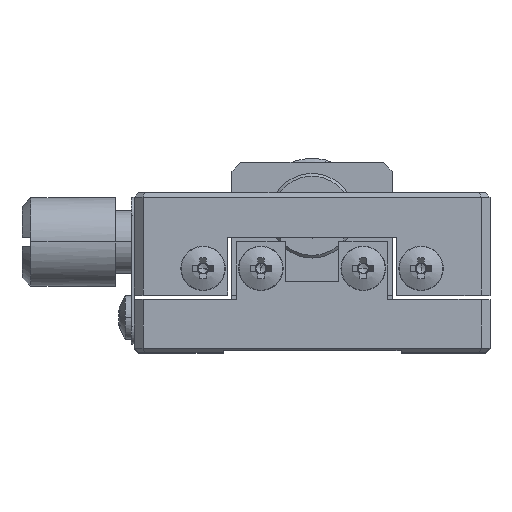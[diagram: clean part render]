
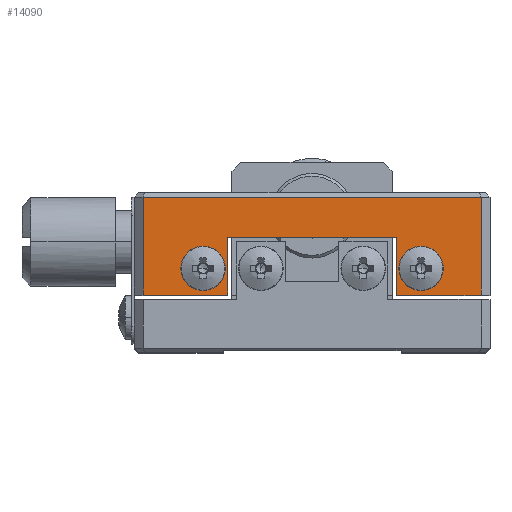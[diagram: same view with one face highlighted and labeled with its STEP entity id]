
A CAD part, top view. The second image highlights one B-rep face of the part: STEP entity #14090.
In plain terms, the highlighted planar face has unit normal (0, 0, 1).
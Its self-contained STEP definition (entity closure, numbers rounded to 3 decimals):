
#13 = VECTOR ( 'NONE', #9646, 1000. ) ;
#201 = AXIS2_PLACEMENT_3D ( 'NONE', #3039, #3044, #3045 ) ;
#425 = VECTOR ( 'NONE', #9691, 1000. ) ;
#449 = VECTOR ( 'NONE', #9792, 1000. ) ;
#454 = VECTOR ( 'NONE', #9825, 1000. ) ;
#479 = AXIS2_PLACEMENT_3D ( 'NONE', #6502, #6503, #6504 ) ;
#481 = VECTOR ( 'NONE', #6505, 1000. ) ;
#482 = CIRCLE ( 'NONE', #479, 2.5 ) ;
#508 = VECTOR ( 'NONE', #6581, 1000. ) ;
#580 = EDGE_CURVE ( 'NONE', #13900, #13899, #9644, .T. ) ;
#594 = EDGE_CURVE ( 'NONE', #13899, #13895, #9686, .T. ) ;
#616 = EDGE_CURVE ( 'NONE', #13894, #13895, #9790, .T. ) ;
#625 = EDGE_CURVE ( 'NONE', #4903, #4914, #9816, .T. ) ;
#647 = EDGE_CURVE ( 'NONE', #5151, #5154, #482, .T. ) ;
#648 = EDGE_CURVE ( 'NONE', #13893, #4914, #6501, .T. ) ;
#670 = EDGE_CURVE ( 'NONE', #13903, #13893, #6577, .T. ) ;
#727 = EDGE_CURVE ( 'NONE', #4903, #13900, #6764, .T. ) ;
#730 = EDGE_CURVE ( 'NONE', #5179, #5150, #9019, .T. ) ;
#742 = EDGE_CURVE ( 'NONE', #13894, #13903, #6834, .T. ) ;
#917 = EDGE_LOOP ( 'NONE', ( #14309, #14310 ) ) ;
#929 = EDGE_LOOP ( 'NONE', ( #14307, #14308 ) ) ;
#930 = EDGE_LOOP ( 'NONE', ( #14311, #14312, #14313, #14314, #14315, #14316, #14317, #14318 ) ) ;
#1629 = CARTESIAN_POINT ( 'NONE',  ( 37.095, 15.5, -35.461 ) ) ;
#1646 = CARTESIAN_POINT ( 'NONE',  ( -0.905, 15.5, -35.461 ) ) ;
#1685 = CARTESIAN_POINT ( 'NONE',  ( 5.845, 5., -35.461 ) ) ;
#1686 = CARTESIAN_POINT ( 'NONE',  ( 30.345, 10., -35.461 ) ) ;
#1688 = CARTESIAN_POINT ( 'NONE',  ( 30.345, 5., -35.461 ) ) ;
#1712 = CARTESIAN_POINT ( 'NONE',  ( 5.845, 10., -35.461 ) ) ;
#2567 = CARTESIAN_POINT ( 'NONE',  ( 37.095, 4.5, -35.461 ) ) ;
#2568 = CARTESIAN_POINT ( 'NONE',  ( -0.905, 4.5, -35.461 ) ) ;
#2569 = CARTESIAN_POINT ( 'NONE',  ( 8.595, 11., -35.461 ) ) ;
#2570 = CARTESIAN_POINT ( 'NONE',  ( 27.595, 11., -35.461 ) ) ;
#2572 = CARTESIAN_POINT ( 'NONE',  ( 27.595, 4.5, -35.461 ) ) ;
#2575 = CARTESIAN_POINT ( 'NONE',  ( 8.595, 4.5, -35.461 ) ) ;
#3025 = FACE_BOUND ( 'NONE', #917, .T. ) ;
#3034 = FACE_OUTER_BOUND ( 'NONE', #930, .T. ) ;
#3038 = FACE_BOUND ( 'NONE', #929, .T. ) ;
#3039 = CARTESIAN_POINT ( 'NONE',  ( 33.295, 4.5, -35.461 ) ) ;
#3043 = PLANE ( 'NONE',  #201 ) ;
#3044 = DIRECTION ( 'NONE',  ( 0., 0., -1. ) ) ;
#3045 = DIRECTION ( 'NONE',  ( 0., 1., 0. ) ) ;
#4903 = VERTEX_POINT ( 'NONE', #1629 ) ;
#4914 = VERTEX_POINT ( 'NONE', #1646 ) ;
#5150 = VERTEX_POINT ( 'NONE', #1685 ) ;
#5151 = VERTEX_POINT ( 'NONE', #1686 ) ;
#5154 = VERTEX_POINT ( 'NONE', #1688 ) ;
#5179 = VERTEX_POINT ( 'NONE', #1712 ) ;
#6499 = CARTESIAN_POINT ( 'NONE',  ( -0.905, 4.5, -35.461 ) ) ;
#6501 = LINE ( 'NONE', #6499, #481 ) ;
#6502 = CARTESIAN_POINT ( 'NONE',  ( 30.345, 7.5, -35.461 ) ) ;
#6503 = DIRECTION ( 'NONE',  ( 0., 0., 1. ) ) ;
#6504 = DIRECTION ( 'NONE',  ( 0., -1., 0. ) ) ;
#6505 = DIRECTION ( 'NONE',  ( 0., 1., 0. ) ) ;
#6576 = CARTESIAN_POINT ( 'NONE',  ( 33.295, 4.5, -35.461 ) ) ;
#6577 = LINE ( 'NONE', #6576, #508 ) ;
#6581 = DIRECTION ( 'NONE',  ( -1., 0., 0. ) ) ;
#6764 = LINE ( 'NONE', #6784, #9014 ) ;
#6784 = CARTESIAN_POINT ( 'NONE',  ( 37.095, 4.5, -35.461 ) ) ;
#6785 = DIRECTION ( 'NONE',  ( 0., -1., 0. ) ) ;
#6796 = CARTESIAN_POINT ( 'NONE',  ( 5.845, 7.5, -35.461 ) ) ;
#6797 = DIRECTION ( 'NONE',  ( 0., 0., 1. ) ) ;
#6798 = DIRECTION ( 'NONE',  ( 0., -1., 0. ) ) ;
#6832 = CARTESIAN_POINT ( 'NONE',  ( 8.595, 4.5, -35.461 ) ) ;
#6834 = LINE ( 'NONE', #6832, #9039 ) ;
#6839 = DIRECTION ( 'NONE',  ( 0., -1., 0. ) ) ;
#7207 = CIRCLE ( 'NONE', #7208, 2.5 ) ;
#7208 = AXIS2_PLACEMENT_3D ( 'NONE', #14831, #14832, #14833 ) ;
#7214 = CIRCLE ( 'NONE', #7218, 2.5 ) ;
#7218 = AXIS2_PLACEMENT_3D ( 'NONE', #14850, #14851, #14852 ) ;
#7871 = EDGE_CURVE ( 'NONE', #5154, #5151, #7207, .T. ) ;
#7877 = EDGE_CURVE ( 'NONE', #5150, #5179, #7214, .T. ) ;
#9012 = AXIS2_PLACEMENT_3D ( 'NONE', #6796, #6797, #6798 ) ;
#9014 = VECTOR ( 'NONE', #6785, 1000. ) ;
#9019 = CIRCLE ( 'NONE', #9012, 2.5 ) ;
#9039 = VECTOR ( 'NONE', #6839, 1000. ) ;
#9644 = LINE ( 'NONE', #9645, #13 ) ;
#9645 = CARTESIAN_POINT ( 'NONE',  ( 33.295, 4.5, -35.461 ) ) ;
#9646 = DIRECTION ( 'NONE',  ( -1., 0., 0. ) ) ;
#9683 = CARTESIAN_POINT ( 'NONE',  ( 27.595, 4.5, -35.461 ) ) ;
#9686 = LINE ( 'NONE', #9683, #425 ) ;
#9691 = DIRECTION ( 'NONE',  ( 0., 1., 0. ) ) ;
#9790 = LINE ( 'NONE', #9791, #449 ) ;
#9791 = CARTESIAN_POINT ( 'NONE',  ( 27.595, 11., -35.461 ) ) ;
#9792 = DIRECTION ( 'NONE',  ( 1., 0., 0. ) ) ;
#9816 = LINE ( 'NONE', #9824, #454 ) ;
#9824 = CARTESIAN_POINT ( 'NONE',  ( -1.905, 15.5, -35.461 ) ) ;
#9825 = DIRECTION ( 'NONE',  ( -1., 0., 0. ) ) ;
#13893 = VERTEX_POINT ( 'NONE', #2568 ) ;
#13894 = VERTEX_POINT ( 'NONE', #2569 ) ;
#13895 = VERTEX_POINT ( 'NONE', #2570 ) ;
#13899 = VERTEX_POINT ( 'NONE', #2572 ) ;
#13900 = VERTEX_POINT ( 'NONE', #2567 ) ;
#13903 = VERTEX_POINT ( 'NONE', #2575 ) ;
#14090 = ADVANCED_FACE ( 'NONE', ( #3038, #3025, #3034 ), #3043, .F. ) ;
#14307 = ORIENTED_EDGE ( 'NONE', *, *, #7871, .F. ) ;
#14308 = ORIENTED_EDGE ( 'NONE', *, *, #647, .F. ) ;
#14309 = ORIENTED_EDGE ( 'NONE', *, *, #7877, .F. ) ;
#14310 = ORIENTED_EDGE ( 'NONE', *, *, #730, .F. ) ;
#14311 = ORIENTED_EDGE ( 'NONE', *, *, #580, .F. ) ;
#14312 = ORIENTED_EDGE ( 'NONE', *, *, #727, .F. ) ;
#14313 = ORIENTED_EDGE ( 'NONE', *, *, #625, .T. ) ;
#14314 = ORIENTED_EDGE ( 'NONE', *, *, #648, .F. ) ;
#14315 = ORIENTED_EDGE ( 'NONE', *, *, #670, .F. ) ;
#14316 = ORIENTED_EDGE ( 'NONE', *, *, #742, .F. ) ;
#14317 = ORIENTED_EDGE ( 'NONE', *, *, #616, .T. ) ;
#14318 = ORIENTED_EDGE ( 'NONE', *, *, #594, .F. ) ;
#14831 = CARTESIAN_POINT ( 'NONE',  ( 30.345, 7.5, -35.461 ) ) ;
#14832 = DIRECTION ( 'NONE',  ( 0., 0., 1. ) ) ;
#14833 = DIRECTION ( 'NONE',  ( 0., -1., 0. ) ) ;
#14850 = CARTESIAN_POINT ( 'NONE',  ( 5.845, 7.5, -35.461 ) ) ;
#14851 = DIRECTION ( 'NONE',  ( 0., 0., 1. ) ) ;
#14852 = DIRECTION ( 'NONE',  ( 0., -1., 0. ) ) ;
